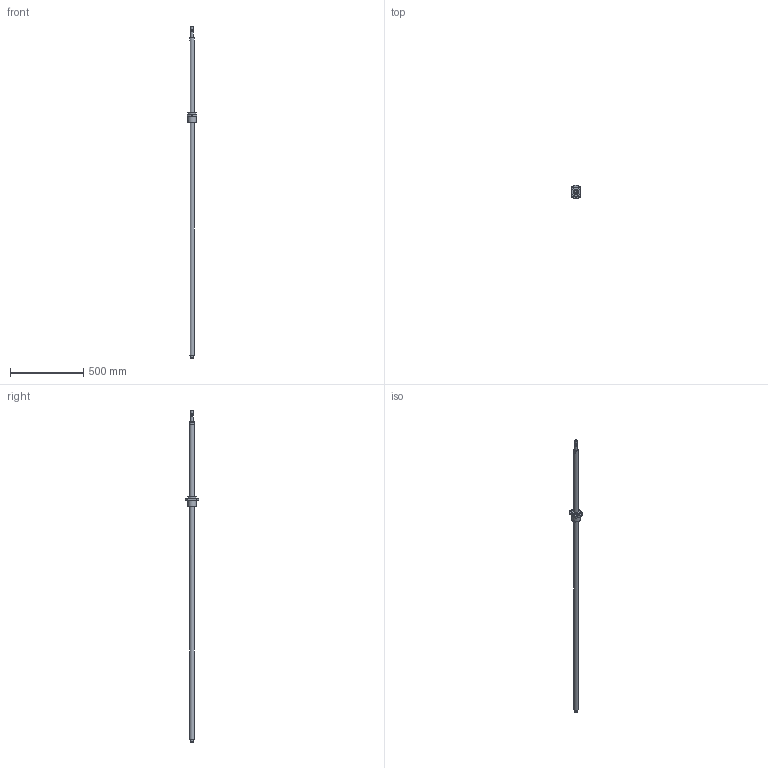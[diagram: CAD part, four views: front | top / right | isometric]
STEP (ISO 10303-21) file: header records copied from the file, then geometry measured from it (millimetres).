
FILE_DESCRIPTION(/* description */ (''),/* implementation_level */ '2;1');
FILE_NAME(/* name */ 'BSG470_asm1.stp',/* time_stamp */ '2017-01-14T09:27:14+08:00',/* author */ (''),/* organization */ (''),/* preprocessor_version */ 'ST-DEVELOPER v15',/* originating_system */ 'SIEMENS PLM Software NX 8.5',/* authorisation */ '');
FILE_SCHEMA (('AUTOMOTIVE_DESIGN { 1 0 10303 214 3 1 1 1 }'));
Length unit declared in the file: millimetre
Products named in the file (3): 01; BSG470; BSG470_asm1
Assembly tree (2 placements, depth 2):
  BSG470_asm1
    BSG470
    01
Bounding box: 68 x 92 x 2260 mm (x, y, z)
Volume: 1934561.1 mm3; surface area: 258487 mm2
Topology: 2 solids, 2 shells, 72 faces, 185 edges, 126 vertices
Faces by surface type: plane 41, cylinder 29, bspline 2
Full cylindrical faces by diameter (mm): 4.5 x4, 5 x1, 6 x1, 9 x4, 17 x1, 19 x1, 20 x8, 32 x2, 58 x2
Entity records: 3391 total; most frequent: CARTESIAN_POINT 1865, DIRECTION 310, ORIENTED_EDGE 260, EDGE_CURVE 130, AXIS2_PLACEMENT_3D 125, EDGE_LOOP 107, VERTEX_POINT 97, FACE_BOUND 71
